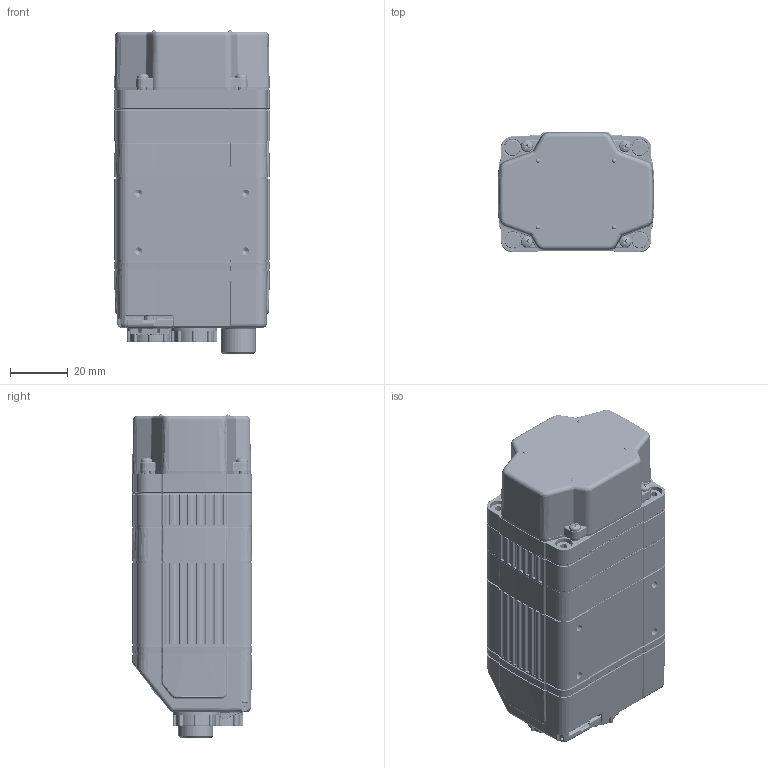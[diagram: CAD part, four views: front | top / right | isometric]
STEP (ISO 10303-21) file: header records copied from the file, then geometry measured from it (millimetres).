
FILE_DESCRIPTION (( 'STEP AP214' ), '1' );
FILE_NAME ('DM360_Mounting_Extension_Cover.STEP', '2015-10-27T09:46:17', ( 'anessel' ), ( 'Microsoft' ), 'SwSTEP 2.0', 'SolidWorks 2014', '' );
FILE_SCHEMA (( 'AUTOMOTIVE_DESIGN' ));
Length unit declared in the file: millimetre
Products named in the file (1): DM360_Mounting_Extension_Cover
Bounding box: 54 x 41.6 x 111.9 mm (x, y, z)
Surface area: 81339.9 mm2 (no closed solid volume)
Topology: 0 solids, 49 shells, 6063 faces, 15271 edges, 9429 vertices
Faces by surface type: plane 1911, cylinder 1707, bspline 1065, cone 699, torus 583, sphere 98
Full cylindrical faces by diameter (mm): 0.4 x1, 0.6 x14, 0.675 x36, 0.78 x12, 0.8 x15, 1.2 x3, 1.25 x12, 1.3 x14, 1.35 x12, 1.4 x4, 1.5 x11, 1.6 x11, 1.783 x4, 1.9 x1, 2 x15, 2.5 x16, 3 x27, 3.2 x23, 5.5 x4, 6 x4, 7.5 x1, 8.3 x2, 8.8 x1, 9 x2, 9.5 x1, 9.9 x1, 10 x3, 10.4 x2, 11 x2, 11.2 x1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
Entity records: 278175 total; most frequent: CARTESIAN_POINT 76301, ORIENTED_EDGE 28946, DIRECTION 26624, EDGE_CURVE 14511, AXIS2_PLACEMENT_3D 10253, VERTEX_POINT 9254, EDGE_LOOP 7006, FACE_OUTER_BOUND 6367
